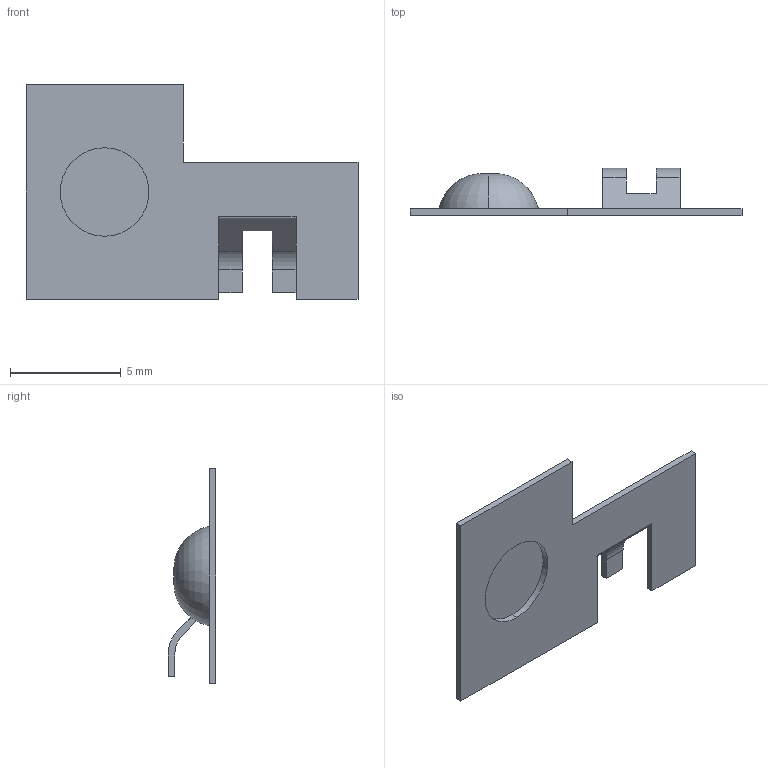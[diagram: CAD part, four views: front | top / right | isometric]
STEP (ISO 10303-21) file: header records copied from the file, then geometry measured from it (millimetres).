
FILE_DESCRIPTION (( 'STEP AP214' ), '1' );
FILE_NAME ('Terminales PP66.STEP', '2017-12-15T10:39:43', ( 'aaa' ), ( '' ), 'SwSTEP 2.0', 'SolidWorks 2013', '' );
FILE_SCHEMA (( 'AUTOMOTIVE_DESIGN' ));
Length unit declared in the file: millimetre
Products named in the file (1): Terminales PP66
Bounding box: 15 x 2.15 x 9.7 mm (x, y, z)
Volume: 47.2 mm3; surface area: 264.5 mm2
Topology: 1 solids, 1 shells, 35 faces, 91 edges, 60 vertices
Faces by surface type: plane 26, cylinder 7, torus 2
Entity records: 1103 total; most frequent: CARTESIAN_POINT 187, DIRECTION 183, ORIENTED_EDGE 182, EDGE_CURVE 91, VECTOR 71, LINE 71, VERTEX_POINT 60, AXIS2_PLACEMENT_3D 56
